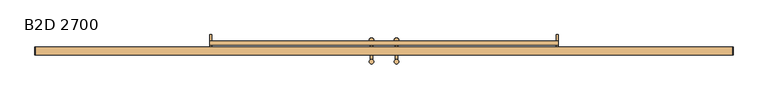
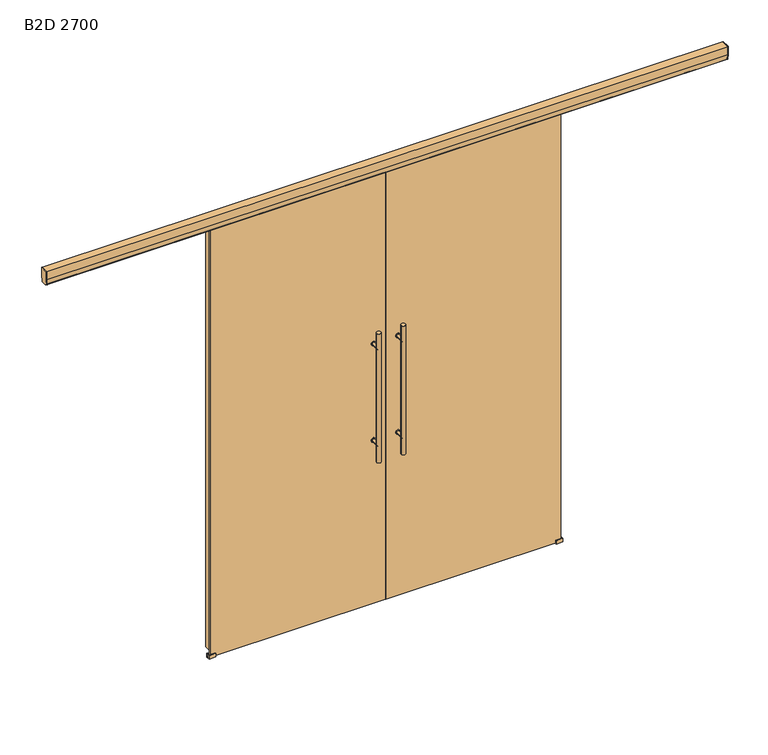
"""IFC4 building model written with IfcOpenShell, lengths in millimetres: door geometry, Mobiliário_Mobiliário de Escritório_Porta Dupla de Correr - BD_Marelli : B2D 2700."""

import ifcopenshell
import ifcopenshell.guid

model = None  # the IFC model being written
_history = None  # IfcOwnerHistory: only IFC2X3 demands one
_inside = {}  # id of a spatial element -> (the spatial element, [elements in it])
_under = {}  # id of a project, library or spatial element -> (it, [spatial elements below it])
_declared = {}  # id of a project -> (the project, [libraries it declares])
_typed = {}  # id of a type object -> (the type object, [elements of that type])
_made_of = {}  # id of a material, layer set ... -> (it, [elements and type objects made of it])


def new_model(schema):
    """Start an empty IFC model of exactly this schema.

    Asked for "IFC4X3", IfcOpenShell would pick the latest addendum, in which some entities
    have other attributes; the version numbers below select the first issue.
    IFC2X3 requires an IfcOwnerHistory on every rooted entity: one is made here for all.
    """
    global model, _history
    if schema == "IFC4X3":
        model = ifcopenshell.file(schema_version=(4, 3, 0, 0))
    else:
        model = ifcopenshell.file(schema=schema)
    _inside.clear()
    _under.clear()
    _declared.clear()
    _typed.clear()
    _made_of.clear()
    _history = None
    if model.schema == "IFC2X3":
        org = make("IfcOrganization", Name="unknown")
        user = make(
            "IfcPersonAndOrganization",
            ThePerson=make("IfcPerson", FamilyName="unknown"),
            TheOrganization=org,
        )
        app = make(
            "IfcApplication",
            ApplicationDeveloper=org,
            Version="unknown",
            ApplicationFullName="unknown",
            ApplicationIdentifier="unknown",
        )
        _history = make(
            "IfcOwnerHistory",
            OwningUser=user,
            OwningApplication=app,
            ChangeAction="ADDED",
            CreationDate=0,
        )
    return model


def make(cls, **values):
    """One entity of the class cls with the attributes given. An attribute that is None is left unset."""
    return model.create_entity(
        cls, **{name: value for name, value in values.items() if value is not None}
    )


def rooted(cls, **values):
    """An entity with a GlobalId (a new one), such as an element, a storey or a relation."""
    return make(cls, GlobalId=ifcopenshell.guid.new(), OwnerHistory=_history, **values)


def si_unit(unit_type, name, prefix=None):
    """IfcSIUnit, for example si_unit("LENGTHUNIT", "METRE", prefix="MILLI")."""
    return make("IfcSIUnit", UnitType=unit_type, Prefix=prefix, Name=name)


def assignment(units):
    """IfcUnitAssignment: the units of a project."""
    return None if units is None else make("IfcUnitAssignment", Units=units)


def point(xyz):
    """IfcCartesianPoint."""
    return None if xyz is None else make("IfcCartesianPoint", Coordinates=xyz)


def direction(xyz):
    """IfcDirection."""
    return None if xyz is None else make("IfcDirection", DirectionRatios=xyz)


def frame(location, z_axis=None, x_axis=None):
    """IfcAxis2Placement3D, a coordinate frame: its origin and axes. An axis left out is left unset."""
    return make(
        "IfcAxis2Placement3D",
        Location=point(location),
        Axis=direction(z_axis),
        RefDirection=direction(x_axis),
    )


def frame_2d(location, x_axis=None):
    """IfcAxis2Placement2D, a coordinate frame in the plane: its origin and x axis."""
    return make(
        "IfcAxis2Placement2D", Location=point(location), RefDirection=direction(x_axis)
    )


def origin():
    """The frame at (0, 0, 0) with its axes left unset."""
    return frame((0.0, 0.0, 0.0))


def origin_with_axes():
    """The frame at (0, 0, 0) with the z axis (0, 0, 1) and the x axis (1, 0, 0) written out."""
    return frame((0.0, 0.0, 0.0), z_axis=(0.0, 0.0, 1.0), x_axis=(1.0, 0.0, 0.0))


def place(relative_to, where):
    """IfcLocalPlacement: puts the frame where relative to a parent placement (None: the world)."""
    return make(
        "IfcLocalPlacement", PlacementRelTo=relative_to, RelativePlacement=where
    )


def context(
    kind, dimensions, precision=None, world=None, true_north=None, identifier=None
):
    """IfcGeometricRepresentationContext, for example the 3D "Model" context."""
    return make(
        "IfcGeometricRepresentationContext",
        ContextIdentifier=identifier,
        ContextType=kind,
        CoordinateSpaceDimension=dimensions,
        Precision=precision,
        WorldCoordinateSystem=world,
        TrueNorth=true_north,
    )


def project(units=None, contexts=None):
    """IfcProject with its units and contexts."""
    return rooted(
        "IfcProject",
        Name="project",
        RepresentationContexts=contexts,
        UnitsInContext=assignment(units),
    )


def spatial(cls, under=None, at=None, **own):
    """A site, building, storey or space (cls), placed at a placement, below another one or the project."""
    s = rooted(cls, ObjectPlacement=at, **own)
    if under is not None:
        _under.setdefault(under.id(), (under, []))[1].append(s)
    return s


def polyline(points):
    """IfcPolyline through the points."""
    return make("IfcPolyline", Points=[point(p) for p in points])


def circle_curve(where, radius):
    """IfcCircle in the frame where."""
    return make("IfcCircle", Position=where, Radius=radius)


def trimmed(basis, trim1, trim2, sense, master):
    """IfcTrimmedCurve: the piece of a basis curve between two trims."""
    return make(
        "IfcTrimmedCurve",
        BasisCurve=basis,
        Trim1=trim1,
        Trim2=trim2,
        SenseAgreement=sense,
        MasterRepresentation=master,
    )


def segment(curve, same_sense, transition):
    """IfcCompositeCurveSegment."""
    return make(
        "IfcCompositeCurveSegment",
        Transition=transition,
        SameSense=same_sense,
        ParentCurve=curve,
    )


def composite_curve(segments, self_intersect=None):
    """IfcCompositeCurve: segments joined end to end."""
    return make("IfcCompositeCurve", Segments=segments, SelfIntersect=self_intersect)


def outline(outer, holes=None, kind="AREA"):
    """IfcArbitraryClosedProfileDef: a profile drawn as a closed curve; with holes, ...WithVoids."""
    if holes is None:
        return make("IfcArbitraryClosedProfileDef", ProfileType=kind, OuterCurve=outer)
    return make(
        "IfcArbitraryProfileDefWithVoids",
        ProfileType=kind,
        OuterCurve=outer,
        InnerCurves=holes,
    )


def extrude(swept, where, along, depth):
    """IfcExtrudedAreaSolid: the profile swept, set in the frame where, extruded along a direction by depth."""
    return make(
        "IfcExtrudedAreaSolid",
        SweptArea=swept,
        Position=where,
        ExtrudedDirection=direction(along),
        Depth=depth,
    )


def shape(context_of_items, identifier, shape_type, items):
    """IfcShapeRepresentation: the items that make up one representation, for example the "Body"."""
    return make(
        "IfcShapeRepresentation",
        ContextOfItems=context_of_items,
        RepresentationIdentifier=identifier,
        RepresentationType=shape_type,
        Items=items,
    )


def source(mapping_origin, context_of_items, identifier, shape_type, items):
    """IfcRepresentationMap: a shape defined once, which mapped items show again and again."""
    return make(
        "IfcRepresentationMap",
        MappingOrigin=mapping_origin,
        MappedRepresentation=shape(context_of_items, identifier, shape_type, items),
    )


def transform(
    local_origin,
    x_axis=None,
    y_axis=None,
    z_axis=None,
    scale=None,
    scale2=None,
    scale3=None,
    uniform=True,
):
    """IfcCartesianTransformationOperator3D, or its non-uniform kind. x_axis, y_axis, z_axis: its Axis1, 2, 3."""
    if uniform:
        return make(
            "IfcCartesianTransformationOperator3D",
            Axis1=direction(x_axis),
            Axis2=direction(y_axis),
            LocalOrigin=point(local_origin),
            Scale=scale,
            Axis3=direction(z_axis),
        )
    return make(
        "IfcCartesianTransformationOperator3DnonUniform",
        Axis1=direction(x_axis),
        Axis2=direction(y_axis),
        LocalOrigin=point(local_origin),
        Scale=scale,
        Axis3=direction(z_axis),
        Scale2=scale2,
        Scale3=scale3,
    )


def mapped(mapping_source, mapping_target):
    """IfcMappedItem: shows the shape of a source again, moved by a transform."""
    return make(
        "IfcMappedItem", MappingSource=mapping_source, MappingTarget=mapping_target
    )


def made_of(thing, what):
    """Note that an element or type object is made of a material, layer set ...; save() writes the relation."""
    if what is not None:
        _made_of.setdefault(what.id(), (what, []))[1].append(thing)
    return thing


def element(
    cls,
    number,
    at=None,
    inside=None,
    cuts=None,
    type_object=None,
    material=None,
    context=None,
    identifier="Body",
    shape_type=None,
    held_by="IfcProductDefinitionShape",
    body=None,
    shapes=None,
    **own,
):
    """One element of the class cls, such as IfcWall. Its Tag is "e" and its number.

    at: its placement. inside: the storey or other place that contains it. cuts: it is an
    opening in that element (IfcRelVoidsElement). A single representation is given by context,
    identifier, shape_type and body (its items); several are given by shapes. held_by: the class
    of the entity that holds the representations. save() writes the other relations.
    """
    e = rooted(cls, Tag="e%d" % number, ObjectPlacement=at, **own)
    if body is not None:
        shapes = [shape(context, identifier, shape_type, body)]
    if shapes is not None:
        e.Representation = make(held_by, Representations=shapes)
    if inside is not None:
        _inside.setdefault(inside.id(), (inside, []))[1].append(e)
    if cuts is not None:
        rooted(
            "IfcRelVoidsElement", RelatingBuildingElement=cuts, RelatedOpeningElement=e
        )
    if type_object is not None:
        _typed.setdefault(type_object.id(), (type_object, []))[1].append(e)
    return made_of(e, material)


def aggregate(whole, parts):
    """IfcRelAggregates: a whole, such as a stair, and the parts it consists of."""
    return rooted("IfcRelAggregates", RelatingObject=whole, RelatedObjects=parts)


def save(model, path):
    """Write the relations noted so far, then the file.

    IfcRelAggregates (storeys below a building ...), IfcRelContainedInSpatialStructure (elements
    in a storey), IfcRelDefinesByType, IfcRelAssociatesMaterial and IfcRelDeclares: one each for
    every whole, place, type object, material and project.
    """
    for whole, parts in _under.values():
        aggregate(whole, parts)
    for where, things in _inside.values():
        rooted(
            "IfcRelContainedInSpatialStructure",
            RelatedElements=things,
            RelatingStructure=where,
        )
    for kind, things in _typed.values():
        rooted("IfcRelDefinesByType", RelatedObjects=things, RelatingType=kind)
    for what, things in _made_of.values():
        rooted("IfcRelAssociatesMaterial", RelatedObjects=things, RelatingMaterial=what)
    for by, libraries in _declared.values():
        rooted("IfcRelDeclares", RelatingContext=by, RelatedDefinitions=libraries)
    model.write(path)


def b2d_2700_ec47df85(model_context):
    return source(origin(), model_context, "Body", "SweptSolid", [
        extrude(outline(polyline([(348.5735443, -30.5), (361.2735443, -30.5), (361.2735443, -100.0), (348.5735443, -100.0), (348.5735443, -30.5)])), origin_with_axes(), (0.0, 0.0, 1.0), 2675.0),
        extrude(outline(polyline([(2348.5735443, -30.5), (2348.5735443, -100.0), (2335.8735443, -100.0), (2335.8735443, -30.5), (2348.5735443, -30.5)])), origin_with_axes(), (0.0, 0.0, 1.0), 2675.0),
        extrude(outline(polyline([(1347.5540863, -129.0), (318.5735443, -129.0), (318.5735443, -119.0), (1347.5540863, -119.0), (1347.5540863, -129.0)])), frame((0.0, 0.0, 4.5), z_axis=(0.0, 0.0, 1.0), x_axis=(1.0, 0.0, 0.0)), (0.0, 0.0, 1.0), 2695.5),
        extrude(outline(polyline([(2378.5735443, -129.0), (1349.5930024, -129.0), (1349.5930024, -119.0), (2378.5735443, -119.0), (2378.5735443, -129.0)])), frame((0.0, 0.0, 4.5), z_axis=(0.0, 0.0, 1.0), x_axis=(1.0, 0.0, 0.0)), (0.0, 0.0, 1.0), 2695.5),
        extrude(outline(polyline([(-68.3, 2700.0), (-68.3, 2675.0), (-83.8, 2675.0), (-83.8, 2684.0), (-90.3, 2684.0), (-90.3, 2700.0), (-68.3, 2700.0)])), frame((348.5735443, 0.0, 0.0), z_axis=(1.0, 0.0, 0.0), x_axis=(0.0, 1.0, 0.0)), (0.0, 0.0, 1.0), 2000.0),
        extrude(outline(composite_curve([segment(polyline([(-148.0, 2750.0099534), (-100.0, 2750.0099534), (-100.0, 2700.0099534), (-103.3526316, 2670.2787193)]), True, "CONTINUOUS"), segment(trimmed(circle_curve(frame_2d((-109.9731658, 2671.7910743)), 6.7910743), [point((-103.3526316, 2670.2787193))], [point((-109.9731658, 2665.0))], False, "CARTESIAN"), True, "CONTINUOUS"), segment(polyline([(-109.9731658, 2665.0), (-138.0268342, 2665.0)]), True, "CONTINUOUS"), segment(trimmed(circle_curve(frame_2d((-138.0268342, 2671.7910743)), 6.7910743), [point((-138.0268342, 2665.0))], [point((-144.6473684, 2670.2787193))], False, "CARTESIAN"), True, "CONTINUOUS"), segment(polyline([(-144.6473684, 2670.2787193), (-148.0, 2700.0099534), (-148.0, 2750.0099534)]), True, "CONTINUOUS")], self_intersect=False)), frame((-654.4264557, 0.0, 0.0), z_axis=(1.0, 0.0, 0.0), x_axis=(0.0, 1.0, 0.0)), (0.0, 0.0, 1.0), 3.0),
        extrude(outline(composite_curve([segment(polyline([(-148.0, 2750.0), (-100.0, 2750.0), (-100.0, 2700.0), (-103.3526316, 2670.2687659)]), True, "CONTINUOUS"), segment(trimmed(circle_curve(frame_2d((-109.9731658, 2671.781121)), 6.7910743), [point((-103.3526316, 2670.2687659))], [point((-109.9731658, 2664.9900466))], False, "CARTESIAN"), True, "CONTINUOUS"), segment(polyline([(-109.9731658, 2664.9900466), (-138.0268342, 2664.9900466)]), True, "CONTINUOUS"), segment(trimmed(circle_curve(frame_2d((-138.0268342, 2671.781121)), 6.7910743), [point((-138.0268342, 2664.9900466))], [point((-144.6473684, 2670.2687659))], False, "CARTESIAN"), True, "CONTINUOUS"), segment(polyline([(-144.6473684, 2670.2687659), (-148.0, 2700.0), (-148.0, 2750.0)]), True, "CONTINUOUS")], self_intersect=False)), frame((3348.5735443, 0.0, 0.0), z_axis=(1.0, 0.0, 0.0), x_axis=(0.0, 1.0, 0.0)), (0.0, 0.0, 1.0), 3.0),
        extrude(outline(composite_curve([segment(polyline([(-148.0, 2750.0), (-100.0, 2750.0), (-100.0, 2700.0), (-103.3526316, 2670.2687659)]), True, "CONTINUOUS"), segment(trimmed(circle_curve(frame_2d((-109.9731658, 2671.781121)), 6.7910743), [point((-103.3526316, 2670.2687659))], [point((-109.9731658, 2664.9900466))], False, "CARTESIAN"), True, "CONTINUOUS"), segment(polyline([(-109.9731658, 2664.9900466), (-119.0, 2664.9900466), (-119.0, 2668.4900466), (-109.9731658, 2668.4900466)]), True, "CONTINUOUS"), segment(trimmed(circle_curve(frame_2d((-109.9731658, 2671.781121)), 3.2910743), [point((-109.9731658, 2668.4900466))], [point((-106.8045793, 2670.8916099))], True, "CARTESIAN"), True, "CONTINUOUS"), segment(polyline([(-106.8045793, 2670.8916099), (-103.5, 2700.1967147), (-103.5, 2746.5), (-144.5, 2746.5), (-144.5, 2700.1967147), (-141.1954207, 2670.8916099)]), True, "CONTINUOUS"), segment(trimmed(circle_curve(frame_2d((-138.0268342, 2671.781121)), 3.2910743), [point((-141.1954207, 2670.8916099))], [point((-138.0268342, 2668.4900466))], True, "CARTESIAN"), True, "CONTINUOUS"), segment(polyline([(-138.0268342, 2668.4900466), (-129.0, 2668.4900466), (-129.0, 2664.9900466), (-138.0268342, 2664.9900466)]), True, "CONTINUOUS"), segment(trimmed(circle_curve(frame_2d((-138.0268342, 2671.781121)), 6.7910743), [point((-138.0268342, 2664.9900466))], [point((-144.6473684, 2670.2687659))], False, "CARTESIAN"), True, "CONTINUOUS"), segment(polyline([(-144.6473684, 2670.2687659), (-148.0, 2700.0), (-148.0, 2750.0)]), True, "CONTINUOUS")], self_intersect=False)), frame((-651.4264557, 0.0, 0.0), z_axis=(1.0, 0.0, 0.0), x_axis=(0.0, 1.0, 0.0)), (0.0, 0.0, 1.0), 4000.0),
        extrude(outline(polyline([(-113.0, 22.0), (-113.0, 0.0), (-135.0, 0.0), (-135.0, 22.0), (-130.3, 22.0), (-129.5, 19.0), (-129.5, 4.5), (-118.5, 4.5), (-118.5, 19.0), (-117.7, 22.0), (-113.0, 22.0)])), frame((308.5735443, 0.0, 0.0), z_axis=(1.0, 0.0, 0.0), x_axis=(0.0, 1.0, 0.0)), (0.0, 0.0, 1.0), 40.0),
        extrude(outline(polyline([(-113.0, 22.0), (-113.0, 0.0), (-135.0, 0.0), (-135.0, 22.0), (-130.3, 22.0), (-129.5, 19.0), (-129.5, 4.5), (-118.5, 4.5), (-118.5, 19.0), (-117.7, 22.0), (-113.0, 22.0)])), frame((2348.5735443, 0.0, 0.0), z_axis=(1.0, 0.0, 0.0), x_axis=(0.0, 1.0, 0.0)), (0.0, 0.0, 1.0), 40.0),
        extrude(outline(composite_curve([segment(trimmed(circle_curve(frame_2d((1020.0, 1276.8040863)), 12.7), [point((1020.0, 1264.1040863))], [point((1020.0, 1289.5040863))], False, "CARTESIAN"), True, "CONTINUOUS"), segment(trimmed(circle_curve(frame_2d((1020.0, 1276.8040863)), 12.7), [point((1020.0, 1289.5040863))], [point((1020.0, 1264.1040863))], False, "CARTESIAN"), True, "CONTINUOUS")], self_intersect=False)), frame((0.0, -133.0, 0.0), z_axis=(0.0, 1.0, 0.0), x_axis=(0.0, 0.0, 1.0)), (0.0, 0.0, 1.0), 18.0),
        extrude(outline(composite_curve([segment(trimmed(circle_curve(frame_2d((1020.0, 1420.3430024)), 12.7), [point((1020.0, 1433.0430024))], [point((1020.0, 1407.6430024))], False, "CARTESIAN"), True, "CONTINUOUS"), segment(trimmed(circle_curve(frame_2d((1020.0, 1420.3430024)), 12.7), [point((1020.0, 1407.6430024))], [point((1020.0, 1433.0430024))], False, "CARTESIAN"), True, "CONTINUOUS")], self_intersect=False)), frame((0.0, -133.0, 0.0), z_axis=(0.0, 1.0, 0.0), x_axis=(0.0, 0.0, 1.0)), (0.0, 0.0, 1.0), 18.0),
        extrude(outline(composite_curve([segment(trimmed(circle_curve(frame_2d((1620.0, 1276.8040863)), 12.7), [point((1620.0, 1264.1040863))], [point((1620.0, 1289.5040863))], False, "CARTESIAN"), True, "CONTINUOUS"), segment(trimmed(circle_curve(frame_2d((1620.0, 1276.8040863)), 12.7), [point((1620.0, 1289.5040863))], [point((1620.0, 1264.1040863))], False, "CARTESIAN"), True, "CONTINUOUS")], self_intersect=False)), frame((0.0, -133.0, 0.0), z_axis=(0.0, 1.0, 0.0), x_axis=(0.0, 0.0, 1.0)), (0.0, 0.0, 1.0), 18.0),
        extrude(outline(composite_curve([segment(trimmed(circle_curve(frame_2d((1620.0, 1420.3430024)), 12.7), [point((1620.0, 1433.0430024))], [point((1620.0, 1407.6430024))], False, "CARTESIAN"), True, "CONTINUOUS"), segment(trimmed(circle_curve(frame_2d((1620.0, 1420.3430024)), 12.7), [point((1620.0, 1407.6430024))], [point((1620.0, 1433.0430024))], False, "CARTESIAN"), True, "CONTINUOUS")], self_intersect=False)), frame((0.0, -133.0, 0.0), z_axis=(0.0, 1.0, 0.0), x_axis=(0.0, 0.0, 1.0)), (0.0, 0.0, 1.0), 18.0),
        extrude(outline(composite_curve([segment(trimmed(circle_curve(frame_2d((1020.0, 1276.8040863)), 8.0), [point((1020.0, 1268.8040863))], [point((1020.0, 1284.8040863))], False, "CARTESIAN"), True, "CONTINUOUS"), segment(trimmed(circle_curve(frame_2d((1020.0, 1276.8040863)), 8.0), [point((1020.0, 1284.8040863))], [point((1020.0, 1268.8040863))], False, "CARTESIAN"), True, "CONTINUOUS")], self_intersect=False)), frame((0.0, -186.2, 0.0), z_axis=(0.0, 1.0, 0.0), x_axis=(0.0, 0.0, 1.0)), (0.0, 0.0, 1.0), 124.4),
        extrude(outline(composite_curve([segment(trimmed(circle_curve(frame_2d((1020.0, 1420.3430024)), 8.0), [point((1020.0, 1428.3430024))], [point((1020.0, 1412.3430024))], False, "CARTESIAN"), True, "CONTINUOUS"), segment(trimmed(circle_curve(frame_2d((1020.0, 1420.3430024)), 8.0), [point((1020.0, 1412.3430024))], [point((1020.0, 1428.3430024))], False, "CARTESIAN"), True, "CONTINUOUS")], self_intersect=False)), frame((0.0, -186.2, 0.0), z_axis=(0.0, 1.0, 0.0), x_axis=(0.0, 0.0, 1.0)), (0.0, 0.0, 1.0), 124.4),
        extrude(outline(composite_curve([segment(trimmed(circle_curve(frame_2d((1620.0, 1276.8040863)), 8.0), [point((1620.0, 1268.8040863))], [point((1620.0, 1284.8040863))], False, "CARTESIAN"), True, "CONTINUOUS"), segment(trimmed(circle_curve(frame_2d((1620.0, 1276.8040863)), 8.0), [point((1620.0, 1284.8040863))], [point((1620.0, 1268.8040863))], False, "CARTESIAN"), True, "CONTINUOUS")], self_intersect=False)), frame((0.0, -186.2, 0.0), z_axis=(0.0, 1.0, 0.0), x_axis=(0.0, 0.0, 1.0)), (0.0, 0.0, 1.0), 124.4),
        extrude(outline(composite_curve([segment(trimmed(circle_curve(frame_2d((1620.0, 1420.3430024)), 8.0), [point((1620.0, 1428.3430024))], [point((1620.0, 1412.3430024))], False, "CARTESIAN"), True, "CONTINUOUS"), segment(trimmed(circle_curve(frame_2d((1620.0, 1420.3430024)), 8.0), [point((1620.0, 1412.3430024))], [point((1620.0, 1428.3430024))], False, "CARTESIAN"), True, "CONTINUOUS")], self_intersect=False)), frame((0.0, -186.2, 0.0), z_axis=(0.0, 1.0, 0.0), x_axis=(0.0, 0.0, 1.0)), (0.0, 0.0, 1.0), 124.4),
        extrude(outline(composite_curve([segment(trimmed(circle_curve(frame_2d((1276.8040863, -61.8)), 12.7), [point((1289.5040863, -61.8))], [point((1264.1040863, -61.8))], False, "CARTESIAN"), True, "CONTINUOUS"), segment(trimmed(circle_curve(frame_2d((1276.8040863, -61.8)), 12.7), [point((1264.1040863, -61.8))], [point((1289.5040863, -61.8))], False, "CARTESIAN"), True, "CONTINUOUS")], self_intersect=False)), frame((0.0, 0.0, 920.0), z_axis=(0.0, 0.0, 1.0), x_axis=(1.0, 0.0, 0.0)), (0.0, 0.0, 1.0), 800.0),
        extrude(outline(composite_curve([segment(trimmed(circle_curve(frame_2d((1276.8040863, -186.2)), 12.7), [point((1289.5040863, -186.2))], [point((1264.1040863, -186.2))], False, "CARTESIAN"), True, "CONTINUOUS"), segment(trimmed(circle_curve(frame_2d((1276.8040863, -186.2)), 12.7), [point((1264.1040863, -186.2))], [point((1289.5040863, -186.2))], False, "CARTESIAN"), True, "CONTINUOUS")], self_intersect=False)), frame((0.0, 0.0, 920.0), z_axis=(0.0, 0.0, 1.0), x_axis=(1.0, 0.0, 0.0)), (0.0, 0.0, 1.0), 800.0),
        extrude(outline(composite_curve([segment(trimmed(circle_curve(frame_2d((1420.3430024, -61.8)), 12.7), [point((1407.6430024, -61.8))], [point((1433.0430024, -61.8))], False, "CARTESIAN"), True, "CONTINUOUS"), segment(trimmed(circle_curve(frame_2d((1420.3430024, -61.8)), 12.7), [point((1433.0430024, -61.8))], [point((1407.6430024, -61.8))], False, "CARTESIAN"), True, "CONTINUOUS")], self_intersect=False)), frame((0.0, 0.0, 920.0), z_axis=(0.0, 0.0, 1.0), x_axis=(1.0, 0.0, 0.0)), (0.0, 0.0, 1.0), 800.0),
        extrude(outline(composite_curve([segment(trimmed(circle_curve(frame_2d((1420.3430024, -186.2)), 12.7), [point((1407.6430024, -186.2))], [point((1433.0430024, -186.2))], False, "CARTESIAN"), True, "CONTINUOUS"), segment(trimmed(circle_curve(frame_2d((1420.3430024, -186.2)), 12.7), [point((1433.0430024, -186.2))], [point((1407.6430024, -186.2))], False, "CARTESIAN"), True, "CONTINUOUS")], self_intersect=False)), frame((0.0, 0.0, 920.0), z_axis=(0.0, 0.0, 1.0), x_axis=(1.0, 0.0, 0.0)), (0.0, 0.0, 1.0), 800.0),
    ])


if __name__ == "__main__":
    model = new_model("IFC4")
    model_context = context("Model", 3, world=origin())
    ifc_project = project(units=[si_unit("LENGTHUNIT", "METRE", prefix="MILLI")], contexts=[model_context])
    site = spatial("IfcSite", under=ifc_project)
    building = spatial("IfcBuilding", under=site)
    placement = place(None, origin())
    b2d_2700_shape = b2d_2700_ec47df85(model_context)
    element("IfcDoor", 1, ObjectType="Mobiliário_Mobiliário de Escritório_Porta Dupla de Correr - BD_Marelli : B2D 2700", at=placement, inside=building, context=model_context, shape_type="MappedRepresentation", body=[
        mapped(b2d_2700_shape, transform((0.0, 0.0, 0.0), x_axis=(1.0, 0.0, 0.0), y_axis=(0.0, 1.0, 0.0), z_axis=(0.0, 0.0, 1.0))),
    ])
    save(model, "model.ifc")
